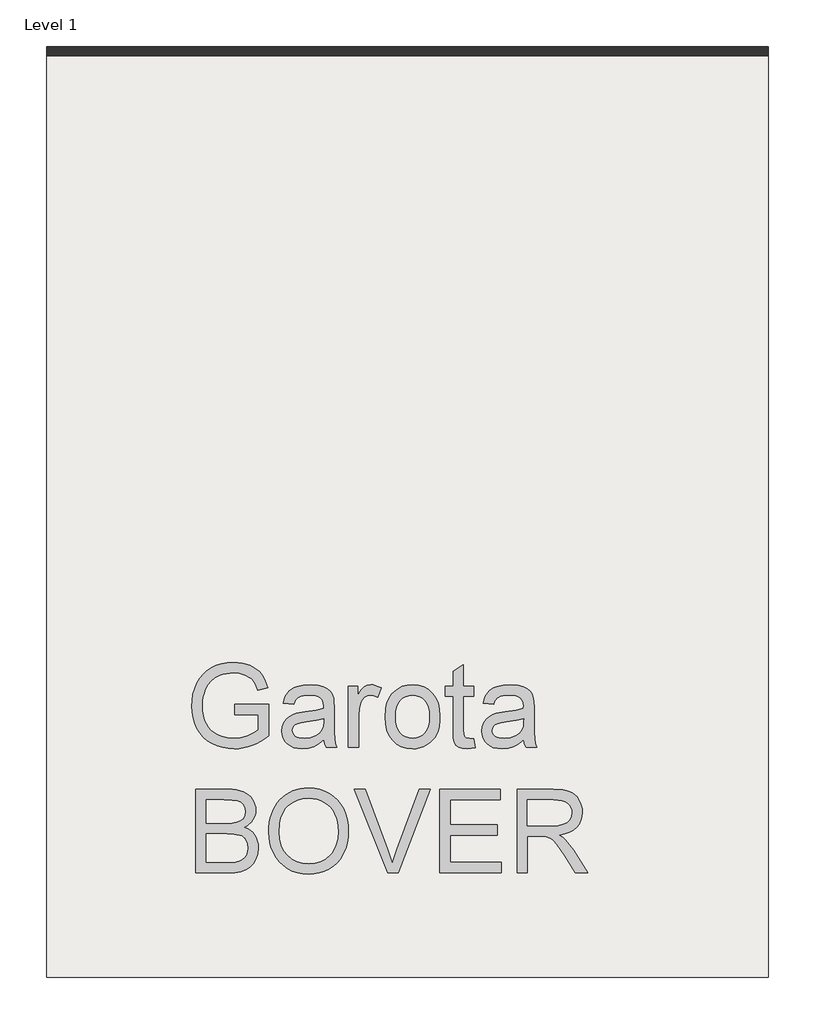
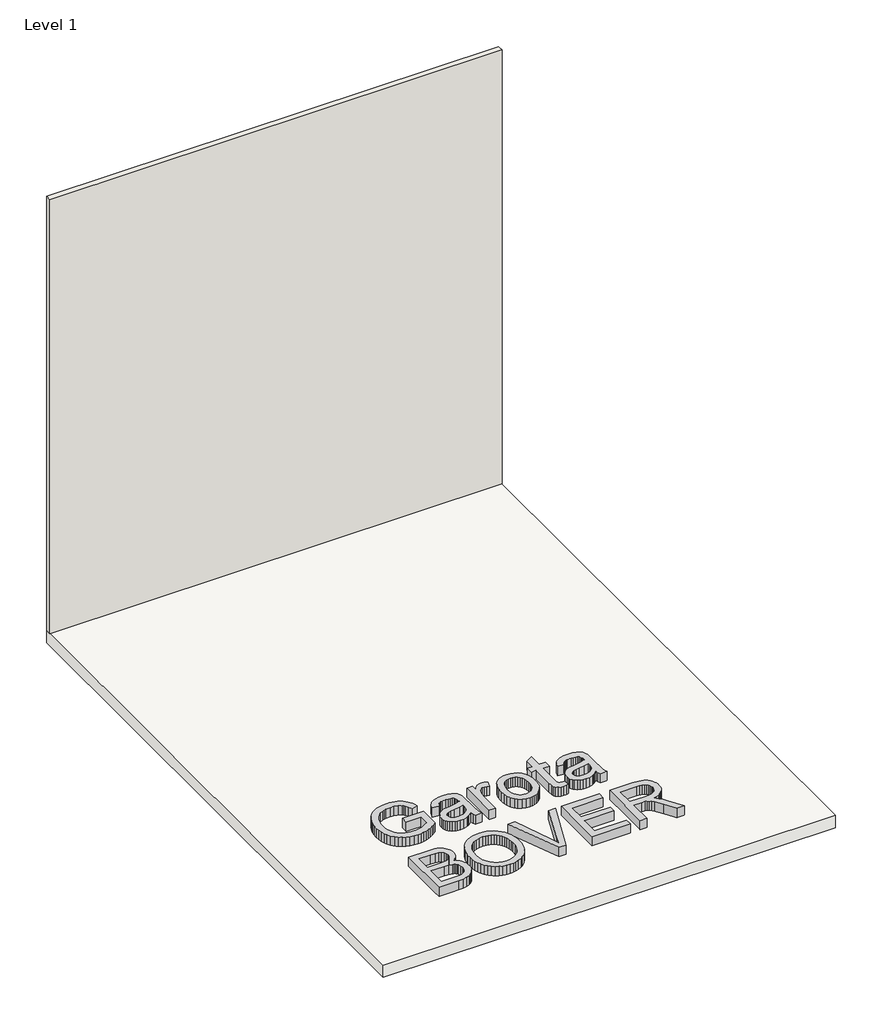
# One storey, incomplete: 2 proxies, 1 slab, 1 wall.
"""IFC4 building model written with IfcOpenShell, lengths in millimetres."""

import ifcopenshell
import ifcopenshell.guid

model = None  # the IFC model being written
_history = None  # IfcOwnerHistory: only IFC2X3 demands one
_inside = {}  # id of a spatial element -> (the spatial element, [elements in it])
_under = {}  # id of a project, library or spatial element -> (it, [spatial elements below it])
_declared = {}  # id of a project -> (the project, [libraries it declares])
_typed = {}  # id of a type object -> (the type object, [elements of that type])
_made_of = {}  # id of a material, layer set ... -> (it, [elements and type objects made of it])


def new_model(schema):
    """Start an empty IFC model of exactly this schema.

    Asked for "IFC4X3", IfcOpenShell would pick the latest addendum, in which some entities
    have other attributes; the version numbers below select the first issue.
    IFC2X3 requires an IfcOwnerHistory on every rooted entity: one is made here for all.
    """
    global model, _history
    if schema == "IFC4X3":
        model = ifcopenshell.file(schema_version=(4, 3, 0, 0))
    else:
        model = ifcopenshell.file(schema=schema)
    _inside.clear()
    _under.clear()
    _declared.clear()
    _typed.clear()
    _made_of.clear()
    _history = None
    if model.schema == "IFC2X3":
        org = make("IfcOrganization", Name="unknown")
        user = make(
            "IfcPersonAndOrganization",
            ThePerson=make("IfcPerson", FamilyName="unknown"),
            TheOrganization=org,
        )
        app = make(
            "IfcApplication",
            ApplicationDeveloper=org,
            Version="unknown",
            ApplicationFullName="unknown",
            ApplicationIdentifier="unknown",
        )
        _history = make(
            "IfcOwnerHistory",
            OwningUser=user,
            OwningApplication=app,
            ChangeAction="ADDED",
            CreationDate=0,
        )
    return model


def make(cls, **values):
    """One entity of the class cls with the attributes given. An attribute that is None is left unset."""
    return model.create_entity(
        cls, **{name: value for name, value in values.items() if value is not None}
    )


def rooted(cls, **values):
    """An entity with a GlobalId (a new one), such as an element, a storey or a relation."""
    return make(cls, GlobalId=ifcopenshell.guid.new(), OwnerHistory=_history, **values)


def si_unit(unit_type, name, prefix=None):
    """IfcSIUnit, for example si_unit("LENGTHUNIT", "METRE", prefix="MILLI")."""
    return make("IfcSIUnit", UnitType=unit_type, Prefix=prefix, Name=name)


def assignment(units):
    """IfcUnitAssignment: the units of a project."""
    return None if units is None else make("IfcUnitAssignment", Units=units)


def point(xyz):
    """IfcCartesianPoint."""
    return None if xyz is None else make("IfcCartesianPoint", Coordinates=xyz)


def direction(xyz):
    """IfcDirection."""
    return None if xyz is None else make("IfcDirection", DirectionRatios=xyz)


def frame(location, z_axis=None, x_axis=None):
    """IfcAxis2Placement3D, a coordinate frame: its origin and axes. An axis left out is left unset."""
    return make(
        "IfcAxis2Placement3D",
        Location=point(location),
        Axis=direction(z_axis),
        RefDirection=direction(x_axis),
    )


def origin():
    """The frame at (0, 0, 0) with its axes left unset."""
    return frame((0.0, 0.0, 0.0))


def origin_with_axes():
    """The frame at (0, 0, 0) with the z axis (0, 0, 1) and the x axis (1, 0, 0) written out."""
    return frame((0.0, 0.0, 0.0), z_axis=(0.0, 0.0, 1.0), x_axis=(1.0, 0.0, 0.0))


def place(relative_to, where):
    """IfcLocalPlacement: puts the frame where relative to a parent placement (None: the world)."""
    return make(
        "IfcLocalPlacement", PlacementRelTo=relative_to, RelativePlacement=where
    )


def context(
    kind, dimensions, precision=None, world=None, true_north=None, identifier=None
):
    """IfcGeometricRepresentationContext, for example the 3D "Model" context."""
    return make(
        "IfcGeometricRepresentationContext",
        ContextIdentifier=identifier,
        ContextType=kind,
        CoordinateSpaceDimension=dimensions,
        Precision=precision,
        WorldCoordinateSystem=world,
        TrueNorth=true_north,
    )


def project(units=None, contexts=None):
    """IfcProject with its units and contexts."""
    return rooted(
        "IfcProject",
        Name="project",
        RepresentationContexts=contexts,
        UnitsInContext=assignment(units),
    )


def spatial(cls, under=None, at=None, **own):
    """A site, building, storey or space (cls), placed at a placement, below another one or the project."""
    s = rooted(cls, ObjectPlacement=at, **own)
    if under is not None:
        _under.setdefault(under.id(), (under, []))[1].append(s)
    return s


def polyline(points):
    """IfcPolyline through the points."""
    return make("IfcPolyline", Points=[point(p) for p in points])


def outline(outer, holes=None, kind="AREA"):
    """IfcArbitraryClosedProfileDef: a profile drawn as a closed curve; with holes, ...WithVoids."""
    if holes is None:
        return make("IfcArbitraryClosedProfileDef", ProfileType=kind, OuterCurve=outer)
    return make(
        "IfcArbitraryProfileDefWithVoids",
        ProfileType=kind,
        OuterCurve=outer,
        InnerCurves=holes,
    )


def extrude(swept, where, along, depth):
    """IfcExtrudedAreaSolid: the profile swept, set in the frame where, extruded along a direction by depth."""
    return make(
        "IfcExtrudedAreaSolid",
        SweptArea=swept,
        Position=where,
        ExtrudedDirection=direction(along),
        Depth=depth,
    )


def shape(context_of_items, identifier, shape_type, items):
    """IfcShapeRepresentation: the items that make up one representation, for example the "Body"."""
    return make(
        "IfcShapeRepresentation",
        ContextOfItems=context_of_items,
        RepresentationIdentifier=identifier,
        RepresentationType=shape_type,
        Items=items,
    )


def made_of(thing, what):
    """Note that an element or type object is made of a material, layer set ...; save() writes the relation."""
    if what is not None:
        _made_of.setdefault(what.id(), (what, []))[1].append(thing)
    return thing


def element(
    cls,
    number,
    at=None,
    inside=None,
    cuts=None,
    type_object=None,
    material=None,
    context=None,
    identifier="Body",
    shape_type=None,
    held_by="IfcProductDefinitionShape",
    body=None,
    shapes=None,
    **own,
):
    """One element of the class cls, such as IfcWall. Its Tag is "e" and its number.

    at: its placement. inside: the storey or other place that contains it. cuts: it is an
    opening in that element (IfcRelVoidsElement). A single representation is given by context,
    identifier, shape_type and body (its items); several are given by shapes. held_by: the class
    of the entity that holds the representations. save() writes the other relations.
    """
    e = rooted(cls, Tag="e%d" % number, ObjectPlacement=at, **own)
    if body is not None:
        shapes = [shape(context, identifier, shape_type, body)]
    if shapes is not None:
        e.Representation = make(held_by, Representations=shapes)
    if inside is not None:
        _inside.setdefault(inside.id(), (inside, []))[1].append(e)
    if cuts is not None:
        rooted(
            "IfcRelVoidsElement", RelatingBuildingElement=cuts, RelatedOpeningElement=e
        )
    if type_object is not None:
        _typed.setdefault(type_object.id(), (type_object, []))[1].append(e)
    return made_of(e, material)


def aggregate(whole, parts):
    """IfcRelAggregates: a whole, such as a stair, and the parts it consists of."""
    return rooted("IfcRelAggregates", RelatingObject=whole, RelatedObjects=parts)


def save(model, path):
    """Write the relations noted so far, then the file.

    IfcRelAggregates (storeys below a building ...), IfcRelContainedInSpatialStructure (elements
    in a storey), IfcRelDefinesByType, IfcRelAssociatesMaterial and IfcRelDeclares: one each for
    every whole, place, type object, material and project.
    """
    for whole, parts in _under.values():
        aggregate(whole, parts)
    for where, things in _inside.values():
        rooted(
            "IfcRelContainedInSpatialStructure",
            RelatedElements=things,
            RelatingStructure=where,
        )
    for kind, things in _typed.values():
        rooted("IfcRelDefinesByType", RelatedObjects=things, RelatingType=kind)
    for what, things in _made_of.values():
        rooted("IfcRelAssociatesMaterial", RelatedObjects=things, RelatingMaterial=what)
    for by, libraries in _declared.values():
        rooted("IfcRelDeclares", RelatingContext=by, RelatedDefinitions=libraries)
    model.write(path)


model = new_model("IFC4")

# Units and contexts
model_context = context("Model", 3, world=origin())
ifc_project = project(units=[si_unit("LENGTHUNIT", "METRE", prefix="MILLI")], contexts=[model_context])

# Site, building, storey
site = spatial("IfcSite", under=ifc_project)
building = spatial("IfcBuilding", under=site)
storey = spatial("IfcBuildingStorey", under=building, Name="Level 1", Elevation=0.0)

# Proxies
placement = place(None, origin())
element("IfcBuildingElementProxy", 1, Name="800mm Arial", ObjectType="800mm Arial", at=placement, inside=storey, context=model_context, shape_type="SweptSolid", body=[
    extrude(outline(polyline([(-1602.5035329, 2177.2369595), (-1602.5035329, 2976.6256578), (-1297.4633631, 2976.6256578), (-1253.2161935, 2975.1558346), (-1213.5675582, 2970.7463647), (-1178.5174571, 2963.3972484), (-1148.0658903, 2953.1084854), (-1121.4383035, 2939.7702966), (-1097.8601426, 2923.2729026), (-1077.3314075, 2903.6163034), (-1059.8520984, 2880.8004989), (-1045.8918267, 2856.112347), (-1035.920204, 2830.8387053), (-1029.9372305, 2804.9795738), (-1027.9429059, 2778.5349526), (-1029.6200902, 2754.1090513), (-1034.6516429, 2730.4028144), (-1043.0375641, 2707.4162422), (-1054.7778537, 2685.1493344), (-1069.9091049, 2664.2973602), (-1088.4679108, 2645.5555887), (-1110.4542714, 2628.92402), (-1135.8681867, 2614.4026539), (-1105.7093648, 2601.5462744), (-1079.246447, 2584.8354206), (-1056.4794333, 2564.2700924), (-1037.4083239, 2539.85029), (-1022.3380612, 2512.3200731), (-1011.5735878, 2482.4235017), (-1005.1149038, 2450.1605759), (-1002.9620091, 2415.5312956), (-1008.8413022, 2359.7877905), (-1026.4791815, 2308.0939229), (-1052.8018257, 2264.1333994), (-1084.7354136, 2231.5899264), (-1123.8412511, 2208.0239632), (-1171.6806443, 2190.9959691), (-1229.8148993, 2180.6767119), (-1299.8053221, 2177.2369595), (-1602.5035329, 2177.2369595)]), holes=[polyline([(-1502.5799456, 2651.8739991), (-1320.1023008, 2651.8739991), (-1256.283916, 2654.020795), (-1213.5431628, 2660.4611824), (-1176.2425854, 2675.2691945), (-1149.4320331, 2697.4446195), (-1133.2578782, 2726.6459218), (-1127.8664932, 2762.5315655), (-1132.8919471, 2797.3682068), (-1147.9683086, 2827.7160932), (-1172.4125065, 2851.4040334), (-1205.5414693, 2866.2608363), (-1256.3814976, 2874.091762), (-1333.958892, 2876.7020706), (-1502.5799456, 2876.7020706), (-1502.5799456, 2651.8739991)]), polyline([(-1502.5799456, 2277.1605468), (-1297.6585263, 2277.1605468), (-1223.4964889, 2281.0638119), (-1189.0745695, 2289.7241814), (-1160.7515019, 2302.824515), (-1137.7222377, 2321.584583), (-1119.1817283, 2347.2241559), (-1106.9596294, 2378.5966493), (-1102.8855964, 2414.5554793), (-1107.6670962, 2456.3204162), (-1122.0115955, 2492.2304554), (-1133.0566161, 2507.4958813), (-1147.0656786, 2520.3095689), (-1164.038783, 2530.671518), (-1183.9759295, 2538.5817288), (-1236.2552868, 2548.6082411), (-1307.4166891, 2551.9504119), (-1502.5799456, 2551.9504119), (-1502.5799456, 2277.1605468)])]), origin_with_axes(), (0.0, 0.0, 1.0), 150.0),
    extrude(outline(polyline([(-903.0384218, 2566.3924928), (-901.3734353, 2614.6191631), (-896.3784757, 2660.1562398), (-888.053543, 2703.0037229), (-876.3986373, 2743.1616123), (-861.4137585, 2780.6299081), (-843.0989067, 2815.4086103), (-821.4540818, 2847.4977189), (-796.4792838, 2876.8972338), (-768.8728313, 2903.198532), (-739.3330428, 2925.9929905), (-707.8599183, 2945.2806092), (-674.4534577, 2961.0613881), (-639.1136612, 2973.3353273), (-601.8405286, 2982.1024267), (-562.6340601, 2987.3626864), (-521.4942555, 2989.1161063), (-467.7145807, 2985.8227263), (-416.642796, 2975.9425864), (-368.2789015, 2959.4756867), (-322.6228972, 2936.422027), (-280.9555419, 2907.4768766), (-244.5575946, 2873.3355044), (-213.4290552, 2833.9979105), (-187.5699237, 2789.4640949), (-167.2485497, 2740.746467), (-152.7332825, 2688.8574362), (-144.0241222, 2633.7970025), (-141.1210687, 2575.5651659), (-144.1765935, 2516.5648739), (-153.3431677, 2460.7603803), (-168.6207913, 2408.151685), (-190.0094645, 2358.738788), (-217.0029824, 2313.8268436), (-249.0951403, 2274.7210061), (-286.2859384, 2241.4212755), (-328.5753765, 2213.9276517), (-374.2984682, 2192.4109027), (-421.7902269, 2177.0417962), (-471.0506526, 2167.8203324), (-522.0797453, 2164.7465111), (-576.7986433, 2168.1435715), (-628.5413017, 2178.3347528), (-677.3077204, 2195.320055), (-723.0978994, 2219.099478), (-764.7164638, 2248.7520953), (-800.9680387, 2283.3569802), (-831.852624, 2322.9141327), (-857.3702198, 2367.4235529), (-877.3500582, 2415.0982771), (-891.6213713, 2464.1513419), (-900.1841592, 2514.5827471), (-903.0384218, 2566.3924928)]), holes=[polyline([(-803.1148345, 2565.4166765), (-798.1198749, 2499.1709487), (-783.1349962, 2440.36582), (-758.1601982, 2389.0012904), (-723.195481, 2345.07736), (-680.6925831, 2309.8991831), (-633.1032428, 2284.7719138), (-580.4274601, 2269.6955522), (-522.665235, 2264.6700984), (-463.914996, 2269.7443431), (-410.6171304, 2284.9670771), (-362.7716384, 2310.3383004), (-320.3785197, 2345.8580131), (-301.7846454, 2367.2192414), (-285.6699544, 2390.7089689), (-260.8781219, 2444.0739219), (-246.0030225, 2505.9528719), (-241.044656, 2576.3458189), (-243.1670564, 2622.0750094), (-249.5342577, 2664.8035649), (-260.1462597, 2704.5314853), (-275.0030626, 2741.2587706), (-293.9399974, 2774.5036116), (-316.7923949, 2803.7841989), (-343.5602553, 2829.1005325), (-374.2435785, 2850.4526126), (-407.8909437, 2867.4013216), (-443.55093, 2879.5075424), (-481.2235373, 2886.7712748), (-520.9087657, 2889.192519), (-576.6644686, 2884.5268974), (-628.3949292, 2870.5300326), (-676.1001477, 2847.2019246), (-719.780124, 2814.5425734), (-739.3116968, 2794.3203056), (-756.2390599, 2770.9784752), (-770.5622132, 2744.5170821), (-782.2811569, 2714.9361264), (-791.3958909, 2682.2356079), (-797.9064151, 2646.4155268), (-803.1148345, 2565.4166765)])]), origin_with_axes(), (0.0, 0.0, 1.0), 150.0),
    extrude(outline(polyline([(232.4214041, 2177.2369595), (-85.6947039, 2976.6256578), (21.2547606, 2976.6256578), (234.1778734, 2400.6988881), (277.3089531, 2270.9153226), (319.854543, 2400.6988881), (533.3631455, 2976.6256578), (640.31261, 2976.6256578), (335.6627667, 2177.2369595), (232.4214041, 2177.2369595)])), origin_with_axes(), (0.0, 0.0, 1.0), 150.0),
    extrude(outline(polyline([(733.2103201, 2177.2369595), (733.2103201, 2976.6256578), (1307.770947, 2976.6256578), (1307.770947, 2876.7020706), (833.1339074, 2876.7020706), (833.1339074, 2639.3835507), (1282.7900502, 2639.3835507), (1282.7900502, 2539.4599634), (833.1339074, 2539.4599634), (833.1339074, 2277.1605468), (1320.2613954, 2277.1605468), (1320.2613954, 2177.2369595), (733.2103201, 2177.2369595)])), origin_with_axes(), (0.0, 0.0, 1.0), 150.0),
    extrude(outline(polyline([(1470.1467764, 2177.2369595), (1470.1467764, 2976.6256578), (1814.609924, 2976.6256578), (1907.1904937, 2971.2342729), (1944.0214595, 2964.4950417), (1974.5462126, 2955.060118), (2000.5395188, 2942.2037385), (2023.7761441, 2925.2001398), (2044.2560883, 2904.0493219), (2061.9793515, 2878.7512847), (2076.2811589, 2850.6660724), (2086.4967356, 2821.1537287), (2092.6260816, 2790.2142537), (2094.669197, 2757.8476474), (2091.2843342, 2716.7901773), (2081.129746, 2679.0992734), (2064.2054324, 2644.7749357), (2040.5113933, 2613.8171641), (2009.7426862, 2587.2139727), (1971.5943684, 2565.9533755), (1926.06644, 2550.0353724), (1873.1589009, 2539.4599634), (1906.0927004, 2517.9432144), (1929.9514085, 2496.7192103), (1970.8869016, 2448.1723502), (2010.9441599, 2393.8681741), (2144.2406641, 2177.2369595), (2028.1185265, 2177.2369595), (1924.0965108, 2342.9305642), (1848.9586571, 2452.6123143), (1821.025916, 2484.594693), (1796.1669962, 2504.4281589), (1772.6254284, 2516.0647681), (1748.6447433, 2523.4565764), (1690.6812561, 2526.969515), (1570.0703637, 2526.969515), (1570.0703637, 2177.2369595), (1470.1467764, 2177.2369595)]), holes=[polyline([(1570.0703637, 2626.8931023), (1793.7274555, 2626.8931023), (1857.9605623, 2630.4304363), (1907.8003789, 2641.0424384), (1945.320515, 2659.4365753), (1960.2383064, 2671.8172444), (1972.5945801, 2686.3203139), (1989.2078523, 2718.8393915), (1994.7456097, 2754.1395455), (1992.1048069, 2779.6937344), (1984.1823984, 2802.8815688), (1970.9783843, 2823.7030487), (1952.4927646, 2842.1581742), (1928.2986197, 2857.2711288), (1897.9690299, 2868.0660965), (1861.5039952, 2874.543077), (1818.9035156, 2876.7020706), (1570.0703637, 2876.7020706), (1570.0703637, 2626.8931023)])]), origin_with_axes(), (0.0, 0.0, 1.0), 150.0),
])
element("IfcBuildingElementProxy", 2, Name="800mm Arial", ObjectType="800mm Arial", at=placement, inside=storey, context=model_context, shape_type="SweptSolid", body=[
    extrude(outline(polyline([(-1227.7900805, 3689.4981698), (-1227.7900805, 3789.4217571), (-903.0384218, 3789.4217571), (-903.0384218, 3490.6268115), (-942.1869513, 3461.2425437), (-981.9575636, 3435.7371456), (-1022.3502589, 3414.1106173), (-1063.365037, 3396.3629586), (-1104.9531072, 3382.5307628), (-1147.0656786, 3372.650623), (-1189.7027513, 3366.7225391), (-1232.8643252, 3364.7465111), (-1290.2606191, 3367.8874197), (-1344.9612206, 3377.3101457), (-1396.9661296, 3393.014689), (-1446.2753461, 3415.0010496), (-1491.2970698, 3442.9398896), (-1530.4395004, 3476.5018708), (-1563.702638, 3515.6869934), (-1591.0864824, 3560.4952573), (-1612.4751555, 3609.4934324), (-1627.7527792, 3661.2482884), (-1636.9193534, 3715.7598255), (-1639.9748781, 3773.0280435), (-1636.9315511, 3830.3023605), (-1627.80157, 3885.6128471), (-1612.5849348, 3938.9595035), (-1591.2816456, 3990.3423296), (-1564.2698312, 4037.5047503), (-1531.9276203, 4078.1901904), (-1494.2550129, 4112.3986499), (-1451.2520091, 4140.1301289), (-1403.8517332, 4161.561494), (-1352.9873095, 4176.8696119), (-1298.658738, 4186.0544827), (-1240.8660187, 4189.1161063), (-1198.6741622, 4187.3413404), (-1158.5559153, 4182.0170428), (-1120.511278, 4173.1432135), (-1084.5402503, 4160.7198524), (-1051.4905726, 4145.1311873), (-1022.2099853, 4126.7614458), (-996.6984884, 4105.6106279), (-974.9560818, 4081.6787336), (-956.2874966, 4054.4229651), (-939.9974635, 4023.3005245), (-926.0859826, 3988.3114119), (-914.553054, 3949.4556274), (-1006.670111, 3923.4989143), (-1027.2354391, 3976.1685981), (-1052.2407314, 4015.9087162), (-1067.3170929, 4031.7169399), (-1085.3209033, 4045.866276), (-1130.1108707, 4069.1882852), (-1183.5124167, 4084.1914605), (-1242.4273248, 4089.192519), (-1311.3931405, 4083.801134), (-1342.1252545, 4077.0619028), (-1370.3568393, 4067.6269791), (-1419.0988626, 4042.6948731), (-1457.3996517, 4011.0296348), (-1486.7961172, 3974.2657563), (-1508.8251698, 3934.0377301), (-1522.4865977, 3897.0786884), (-1532.2447606, 3858.6071315), (-1538.0996583, 3818.6230593), (-1540.0512908, 3777.1264719), (-1537.7032329, 3727.2317657), (-1530.6590591, 3681.5696625), (-1518.9187695, 3640.1401625), (-1502.482364, 3602.9432656), (-1481.5633024, 3570.1192454), (-1456.3750446, 3541.8083755), (-1426.9175906, 3518.0106559), (-1393.1909404, 3498.7260866), (-1356.7746965, 3483.8265918), (-1319.2484616, 3473.1840954), (-1280.6122356, 3466.7985976), (-1240.8660187, 3464.6700984), (-1206.047674, 3466.2740964), (-1171.6562489, 3471.0860904), (-1137.6917434, 3479.1060805), (-1104.1541576, 3490.3340666), (-1045.5319944, 3516.8518741), (-1002.9620091, 3545.07736), (-1002.9620091, 3689.4981698), (-1227.7900805, 3689.4981698)])), origin_with_axes(), (0.0, 0.0, 1.0), 150.0),
    extrude(outline(polyline([(-378.4395885, 3452.17965), (-426.1814001, 3411.2441569), (-450.582906, 3396.0824115), (-475.3381454, 3384.458), (-527.0320129, 3369.6743833), (-582.3851915, 3364.7465111), (-626.8763151, 3367.710553), (-665.8906699, 3376.6026789), (-699.4282557, 3391.4228887), (-727.4890727, 3412.1711824), (-749.6462011, 3437.530208), (-765.4727214, 3466.1826136), (-774.9686336, 3498.1283992), (-778.1339377, 3533.3675646), (-773.3524379, 3574.7909658), (-759.0079386, 3612.4086835), (-736.8813044, 3644.6106208), (-708.7534, 3669.7866809), (-675.6976235, 3688.8150984), (-638.7873726, 3702.574108), (-552.33005, 3717.6016787), (-450.1620853, 3733.4099025), (-379.0250783, 3751.9504119), (-378.4395885, 3774.1990231), (-380.1594647, 3798.4236623), (-385.3190933, 3818.7938272), (-393.9184743, 3835.3095178), (-405.9576077, 3847.970734), (-426.7668899, 3860.6075549), (-452.1137178, 3869.6338555), (-481.9980915, 3875.0496358), (-516.4200108, 3876.854896), (-575.944804, 3872.0490008), (-598.9740683, 3866.0416318), (-617.5145777, 3857.6313152), (-632.7495094, 3846.159375), (-645.8620407, 3830.9671353), (-656.8521715, 3812.054596), (-665.719902, 3789.4217571), (-765.6434893, 3801.9122055), (-748.2983549, 3856.5579173), (-736.4238905, 3879.4895999), (-722.414828, 3899.4938337), (-705.6673811, 3916.9731429), (-685.5777633, 3932.3300516), (-662.1459749, 3945.5645599), (-635.3720156, 3956.6766678), (-573.9687761, 3971.7530294), (-503.5392359, 3976.7784833), (-435.9883538, 3972.3385192), (-382.4404353, 3959.0186269), (-342.0660366, 3938.9899977), (-314.0357139, 3914.4238228), (-295.4464137, 3884.051541), (-283.3950827, 3846.6045912), (-279.7357716, 3812.0606948), (-278.5160012, 3759.1714523), (-278.5160012, 3634.852458), (-277.2474401, 3526.5612461), (-273.4417566, 3461.2547414), (-265.9279712, 3418.3432204), (-253.5351044, 3377.2369595), (-353.4586917, 3377.2369595), (-369.4620787, 3411.9760191), (-378.4395885, 3452.17965)]), holes=[polyline([(-378.4395885, 3652.0268246), (-445.5757487, 3635.3891569), (-539.6444383, 3621.3861933), (-591.4846783, 3613.7260355), (-625.6138528, 3605.187643), (-647.9844411, 3594.1121282), (-664.5489225, 3578.8406034), (-674.7949934, 3560.5440481), (-678.2103504, 3540.3934419), (-676.3502006, 3524.8657653), (-670.7697513, 3510.6798361), (-661.4690023, 3497.8356543), (-648.4479538, 3486.3332198), (-631.8285828, 3476.8556042), (-611.7328662, 3470.0858787), (-561.1123966, 3464.6700984), (-507.442501, 3470.6469731), (-482.9495124, 3478.1180665), (-460.0178297, 3488.5775973), (-421.5706682, 3514.9978231), (-394.8333021, 3546.4435028), (-382.9771342, 3578.8406034), (-379.0250783, 3623.7281524), (-378.4395885, 3652.0268246)])]), origin_with_axes(), (0.0, 0.0, 1.0), 150.0),
    extrude(outline(polyline([(-141.1210687, 3377.2369595), (-141.1210687, 3964.2880348), (-53.6879298, 3964.2880348), (-53.6879298, 3877.4403857), (-21.3884109, 3927.7925059), (-6.1900723, 3945.2108265), (8.3739857, 3957.4573209), (38.2339639, 3971.9481927), (70.8262278, 3976.7784833), (95.6119613, 3974.8512461), (120.5928582, 3969.0695346), (145.7689182, 3959.4333488), (171.1401416, 3945.9426887), (137.7672247, 3856.362754), (102.6378386, 3871.7318605), (67.5084524, 3876.854896), (37.6728696, 3871.9270237), (11.0086897, 3857.1434071), (-10.5324548, 3833.6262347), (-24.9989311, 3802.4976953), (-37.1478439, 3746.6810039), (-41.1974814, 3685.7900679), (-41.1974814, 3377.2369595), (-141.1210687, 3377.2369595)])), origin_with_axes(), (0.0, 0.0, 1.0), 150.0),
    extrude(outline(polyline([(208.6114868, 3670.7624972), (214.0150695, 3746.7907833), (220.7695478, 3780.8620186), (230.2258175, 3812.3046489), (242.3838784, 3841.1186741), (257.2437308, 3867.3040941), (274.8053744, 3890.860909), (295.0688094, 3911.7891189), (333.1500398, 3940.2219658), (375.1833262, 3960.5311422), (421.1686685, 3972.716648), (471.1060667, 3976.7784833), (526.2335878, 3971.8323145), (576.0795033, 3956.9938081), (620.6438131, 3932.2629642), (659.9265173, 3897.6397828), (691.988181, 3854.2952433), (714.8893694, 3803.4003253), (728.6300824, 3744.9550289), (733.2103201, 3678.9593539), (731.1855013, 3625.472424), (725.111045, 3578.0111596), (714.986951, 3536.5755607), (700.8132195, 3501.1656273), (682.7667172, 3470.5798857), (661.0243106, 3443.6168621), (635.5859999, 3420.2765564), (606.451785, 3400.5589686), (574.7560524, 3384.8910185), (541.6331885, 3373.6996255), (507.0831933, 3366.9847897), (471.1060667, 3364.7465111), (415.1734972, 3369.6743833), (364.864069, 3384.458), (320.1777821, 3409.0973611), (281.1146366, 3443.5924667), (249.3945086, 3487.3578269), (226.7372742, 3539.8079521), (213.1429337, 3600.9428422), (208.6114868, 3670.7624972)]), holes=[polyline([(308.5350741, 3670.9576604), (311.4259298, 3622.4900855), (320.098497, 3580.5238865), (334.5527757, 3545.0590635), (354.7887659, 3516.0956165), (379.4037316, 3493.5969523), (406.994937, 3477.5264779), (437.562382, 3467.8841933), (471.1060667, 3464.6700984), (504.4789836, 3467.9024898), (534.9244516, 3477.5996641), (562.4424707, 3493.7616213), (587.033041, 3516.3883613), (607.2690312, 3545.6384544), (621.7233099, 3581.6704706), (630.3958771, 3624.48441), (633.2867328, 3674.0802725), (630.3775805, 3721.0109369), (621.6501236, 3761.8793425), (607.1043622, 3796.6854895), (586.7402961, 3825.4293779), (562.0582431, 3847.9280421), (534.5585205, 3863.9985164), (504.2411283, 3873.6408011), (471.1060667, 3876.854896), (437.562382, 3873.6529988), (406.994937, 3864.0473073), (379.4037316, 3848.0378214), (354.7887659, 3825.6245412), (334.5527757, 3796.7464781), (320.098497, 3761.3426436), (311.4259298, 3719.4130377), (308.5350741, 3670.9576604)])]), origin_with_axes(), (0.0, 0.0, 1.0), 150.0),
    extrude(outline(polyline([(1057.9619788, 3460.57167), (1070.4524272, 3374.3095107), (1030.883077, 3367.137261), (995.7049, 3364.7465111), (947.7435297, 3368.8937303), (911.979863, 3381.3353879), (886.7062213, 3400.5101778), (870.2149261, 3424.8567941), (861.1398347, 3466.6705218), (858.1148042, 3538.2466461), (858.1148042, 3864.3644476), (783.1721137, 3864.3644476), (783.1721137, 3964.2880348), (858.1148042, 3964.2880348), (858.1148042, 4106.9523753), (958.0383915, 4165.6965155), (958.0383915, 3964.2880348), (1057.9619788, 3964.2880348), (1057.9619788, 3864.3644476), (958.0383915, 3864.3644476), (958.0383915, 3541.1740949), (959.3557435, 3508.2890862), (963.3077994, 3489.6509952), (970.2116996, 3479.331738), (980.3845844, 3471.4032307), (994.8022699, 3466.3533815), (1014.4405726, 3464.6700984), (1057.9619788, 3460.57167)])), origin_with_axes(), (0.0, 0.0, 1.0), 150.0),
    extrude(outline(polyline([(1532.5990184, 3452.17965), (1484.8572068, 3411.2441569), (1460.4557009, 3396.0824115), (1435.7004616, 3384.458), (1384.0065941, 3369.6743833), (1328.6534155, 3364.7465111), (1284.1622919, 3367.710553), (1245.1479371, 3376.6026789), (1211.6103513, 3391.4228887), (1183.5495343, 3412.1711824), (1161.3924059, 3437.530208), (1145.5658855, 3466.1826136), (1136.0699733, 3498.1283992), (1132.9046693, 3533.3675646), (1137.686169, 3574.7909658), (1152.0306684, 3612.4086835), (1174.1573026, 3644.6106208), (1202.2852069, 3669.7866809), (1235.3409835, 3688.8150984), (1272.2512344, 3702.574108), (1358.708557, 3717.6016787), (1460.8765217, 3733.4099025), (1532.0135287, 3751.9504119), (1532.5990184, 3774.1990231), (1530.8791422, 3798.4236623), (1525.7195136, 3818.7938272), (1517.1201327, 3835.3095178), (1505.0809993, 3847.970734), (1484.2717171, 3860.6075549), (1458.9248891, 3869.6338555), (1429.0405155, 3875.0496358), (1394.6185961, 3876.854896), (1335.0938029, 3872.0490008), (1312.0645387, 3866.0416318), (1293.5240293, 3857.6313152), (1278.2890976, 3846.159375), (1265.1765663, 3830.9671353), (1254.1864354, 3812.054596), (1245.318705, 3789.4217571), (1145.3951177, 3801.9122055), (1162.7402521, 3856.5579173), (1174.6147165, 3879.4895999), (1188.623779, 3899.4938337), (1205.3712259, 3916.9731429), (1225.4608436, 3932.3300516), (1248.8926321, 3945.5645599), (1275.6665913, 3956.6766678), (1337.0698309, 3971.7530294), (1407.4993711, 3976.7784833), (1475.0502532, 3972.3385192), (1528.5981717, 3959.0186269), (1568.9725704, 3938.9899977), (1597.0028931, 3914.4238228), (1615.5921932, 3884.051541), (1627.6435243, 3846.6045912), (1631.3028354, 3812.0606948), (1632.5226057, 3759.1714523), (1632.5226057, 3634.852458), (1633.7911669, 3526.5612461), (1637.5968504, 3461.2547414), (1645.1106358, 3418.3432204), (1657.5035026, 3377.2369595), (1557.5799153, 3377.2369595), (1541.5765282, 3411.9760191), (1532.5990184, 3452.17965)]), holes=[polyline([(1532.5990184, 3652.0268246), (1465.4628582, 3635.3891569), (1371.3941686, 3621.3861933), (1319.5539286, 3613.7260355), (1285.4247542, 3605.187643), (1263.0541659, 3594.1121282), (1246.4896845, 3578.8406034), (1236.2436135, 3560.5440481), (1232.8282566, 3540.3934419), (1234.6884063, 3524.8657653), (1240.2688557, 3510.6798361), (1249.5696046, 3497.8356543), (1262.5906532, 3486.3332198), (1279.2100242, 3476.8556042), (1299.3057408, 3470.0858787), (1349.9262104, 3464.6700984), (1403.5961059, 3470.6469731), (1428.0890946, 3478.1180665), (1451.0207772, 3488.5775973), (1489.4679388, 3514.9978231), (1516.2053049, 3546.4435028), (1528.0614727, 3578.8406034), (1532.0135287, 3623.7281524), (1532.5990184, 3652.0268246)])]), origin_with_axes(), (0.0, 0.0, 1.0), 150.0),
])

# Slab
element("IfcSlab", 3, ObjectType="Generic Floor - 400mm", at=placement, inside=storey, context=model_context, shape_type="SweptSolid", body=[
    extrude(outline(polyline([(3872.0161744, 10078.1535958), (3872.0161744, 1178.1535958), (-3027.9838256, 1178.1535958), (-3027.9838256, 10078.1535958), (3872.0161744, 10078.1535958)])), frame((0.0, 0.0, -200.0), z_axis=(0.0, 0.0, 1.0), x_axis=(1.0, 0.0, 0.0)), (0.0, 0.0, 1.0), 200.0),
])

# Wall
element("IfcWall", 4, ObjectType="Generic - 90mm Brick", at=placement, inside=storey, context=model_context, shape_type="SweptSolid", body=[
    extrude(outline(polyline([(3872.0161744, 9988.1535958), (-3027.9838256, 9988.1535958), (-3027.9838256, 10078.1535958), (3872.0161744, 10078.1535958), (3872.0161744, 9988.1535958)])), origin_with_axes(), (0.0, 0.0, 1.0), 7000.0),
])

save(model, "model.ifc")
